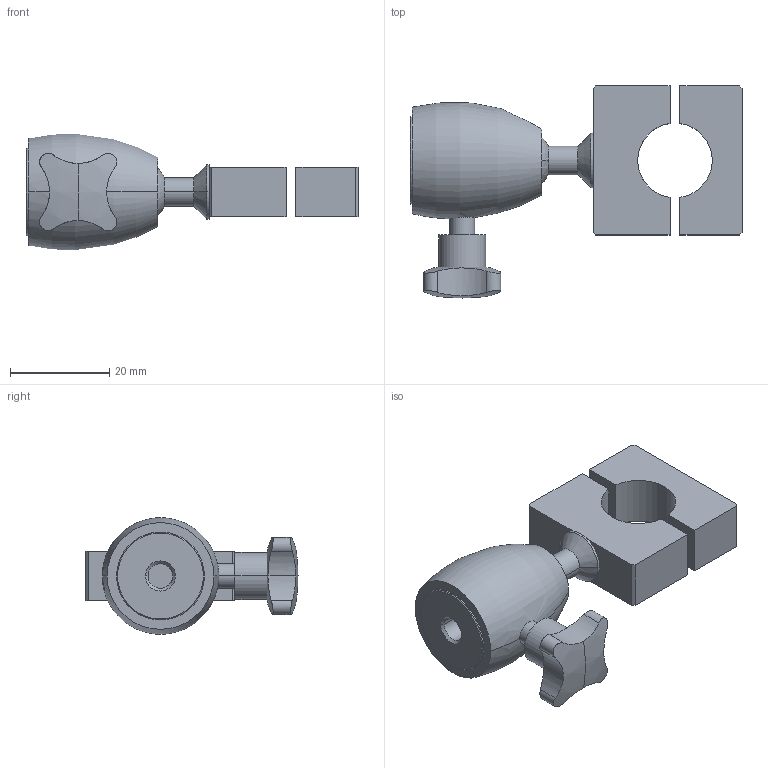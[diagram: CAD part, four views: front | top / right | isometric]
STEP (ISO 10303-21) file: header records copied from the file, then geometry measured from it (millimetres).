
FILE_DESCRIPTION (( 'STEP AP203' ), '1' );
FILE_NAME ('BKK-B2-LD.STEP', '2011-12-20T11:55:33', ( '' ), ( '' ), 'SwSTEP 2.0', 'SolidWorks 2010', '' );
FILE_SCHEMA (( 'CONFIG_CONTROL_DESIGN' ));
Length unit declared in the file: millimetre
Products named in the file (5): BKK-B2-LD; BKK-B2-LD-Grundkörper; BKK-B2-LD-Rändel; BKK-B2-LD_Roh_mec005200 B2-LD; BKK-B2-LD-Kugel
Assembly tree (4 placements, depth 2):
  BKK-B2-LD
    BKK-B2-LD-Kugel
    BKK-B2-LD_Roh_mec005200 B2-LD
    BKK-B2-LD-Rändel
    BKK-B2-LD-Grundkörper
Bounding box: 66.87 x 42.7 x 23.42 mm (x, y, z)
Volume: 17234.7 mm3; surface area: 8531.5 mm2
Topology: 5 solids, 5 shells, 95 faces, 235 edges, 147 vertices
Faces by surface type: cylinder 38, plane 30, cone 16, sphere 9, torus 2
Entity records: 3786 total; most frequent: CARTESIAN_POINT 1058, DIRECTION 474, ORIENTED_EDGE 454, EDGE_CURVE 227, AXIS2_PLACEMENT_3D 185, VERTEX_POINT 144, VECTOR 104, LINE 104
